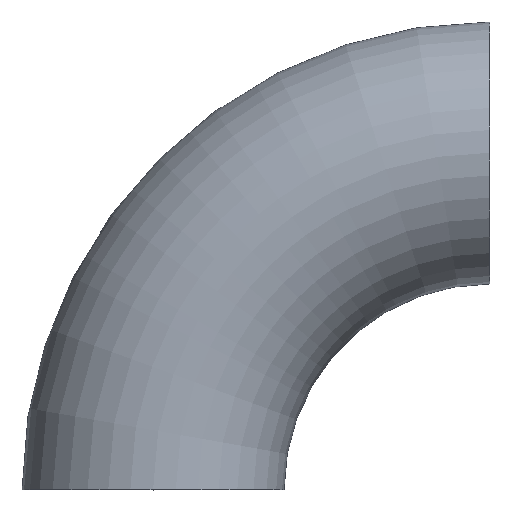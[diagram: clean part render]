
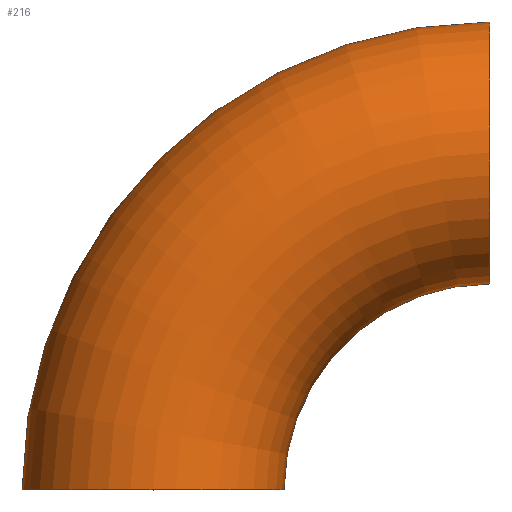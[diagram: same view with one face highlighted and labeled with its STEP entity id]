
A CAD part, top view. The second image highlights one B-rep face of the part: STEP entity #216.
In plain terms, the highlighted toroidal (fillet/blend) face has major radius 45 mm and minor radius 17.5 mm.
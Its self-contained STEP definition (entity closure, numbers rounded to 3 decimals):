
#7 = AXIS2_PLACEMENT_3D ( 'NONE', #12, #30, #75 ) ;
#12 = CARTESIAN_POINT ( 'NONE',  ( 0., 0., 0. ) ) ;
#13 = DIRECTION ( 'NONE',  ( 0., 0., 1. ) ) ;
#17 = DIRECTION ( 'NONE',  ( 1., 0., 0. ) ) ;
#20 = ORIENTED_EDGE ( 'NONE', *, *, #133, .T. ) ;
#26 = AXIS2_PLACEMENT_3D ( 'NONE', #92, #108, #17 ) ;
#30 = DIRECTION ( 'NONE',  ( 0., 1., 0. ) ) ;
#31 = FACE_OUTER_BOUND ( 'NONE', #90, .T. ) ;
#42 = AXIS2_PLACEMENT_3D ( 'NONE', #53, #204, #223 ) ;
#53 = CARTESIAN_POINT ( 'NONE',  ( 45., 45., 0. ) ) ;
#59 = VERTEX_POINT ( 'NONE', #142 ) ;
#61 = EDGE_CURVE ( 'NONE', #166, #59, #229, .T. ) ;
#69 = DIRECTION ( 'NONE',  ( 0., 0., 1. ) ) ;
#75 = DIRECTION ( 'NONE',  ( 0., 0., 1. ) ) ;
#84 = CIRCLE ( 'NONE', #239, 62.5 ) ;
#90 = EDGE_LOOP ( 'NONE', ( #198, #236, #20, #147 ) ) ;
#91 = DIRECTION ( 'NONE',  ( 1., 0., 0. ) ) ;
#92 = CARTESIAN_POINT ( 'NONE',  ( 45., 0., 0. ) ) ;
#93 = CIRCLE ( 'NONE', #7, 17.5 ) ;
#106 = VERTEX_POINT ( 'NONE', #126 ) ;
#108 = DIRECTION ( 'NONE',  ( 0., 0., 1. ) ) ;
#118 = DIRECTION ( 'NONE',  ( 1., 0., 0. ) ) ;
#126 = CARTESIAN_POINT ( 'NONE',  ( -17.5, 0., 0. ) ) ;
#133 = EDGE_CURVE ( 'NONE', #106, #59, #93, .T. ) ;
#142 = CARTESIAN_POINT ( 'NONE',  ( 17.5, 0., 0. ) ) ;
#144 = EDGE_CURVE ( 'NONE', #195, #106, #84, .T. ) ;
#147 = ORIENTED_EDGE ( 'NONE', *, *, #61, .F. ) ;
#161 = TOROIDAL_SURFACE ( 'NONE', #26, 45., 17.5 ) ;
#166 = VERTEX_POINT ( 'NONE', #226 ) ;
#167 = CARTESIAN_POINT ( 'NONE',  ( 45., 0., 0. ) ) ;
#183 = CIRCLE ( 'NONE', #42, 17.5 ) ;
#189 = CARTESIAN_POINT ( 'NONE',  ( 45., 62.5, 0. ) ) ;
#195 = VERTEX_POINT ( 'NONE', #189 ) ;
#198 = ORIENTED_EDGE ( 'NONE', *, *, #218, .F. ) ;
#204 = DIRECTION ( 'NONE',  ( 1., 0., 0. ) ) ;
#207 = CARTESIAN_POINT ( 'NONE',  ( 45., 0., 0. ) ) ;
#216 = ADVANCED_FACE ( 'NONE', ( #31 ), #161, .T. ) ;
#218 = EDGE_CURVE ( 'NONE', #195, #166, #183, .T. ) ;
#223 = DIRECTION ( 'NONE',  ( 0., 0., 1. ) ) ;
#226 = CARTESIAN_POINT ( 'NONE',  ( 45., 27.5, 0. ) ) ;
#229 = CIRCLE ( 'NONE', #231, 27.5 ) ;
#231 = AXIS2_PLACEMENT_3D ( 'NONE', #167, #69, #118 ) ;
#236 = ORIENTED_EDGE ( 'NONE', *, *, #144, .T. ) ;
#239 = AXIS2_PLACEMENT_3D ( 'NONE', #207, #13, #91 ) ;
